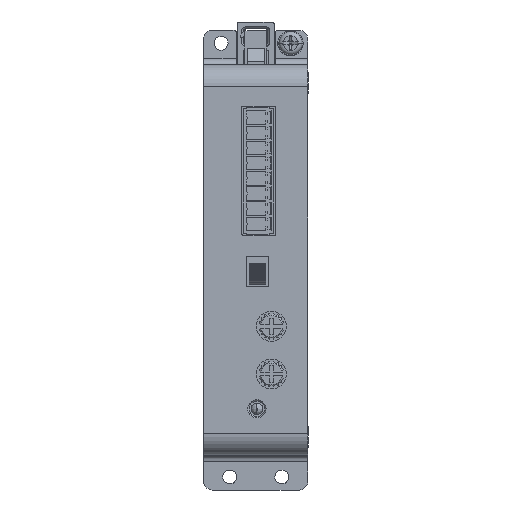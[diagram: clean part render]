
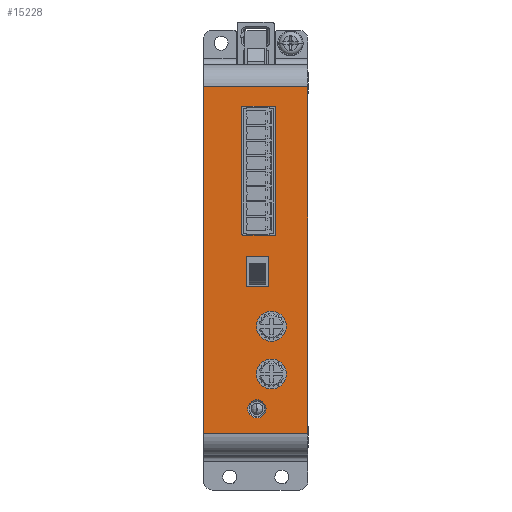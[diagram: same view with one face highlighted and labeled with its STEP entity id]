
A CAD part, front view. The second image highlights one B-rep face of the part: STEP entity #15228.
In plain terms, the highlighted planar face has unit normal (0, -1, 0).
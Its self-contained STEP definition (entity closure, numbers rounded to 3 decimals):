
#398=CARTESIAN_POINT('',(16.3,-35.,35.3));
#399=DIRECTION('',(0.,1.,0.));
#400=DIRECTION('',(0.,0.,1.));
#401=AXIS2_PLACEMENT_3D('',#398,#399,#400);
#403=CARTESIAN_POINT('',(9.,-35.,35.3));
#404=DIRECTION('',(0.,1.,0.));
#405=DIRECTION('',(-1.,0.,0.));
#406=AXIS2_PLACEMENT_3D('',#403,#404,#405);
#408=CARTESIAN_POINT('',(9.,-35.,5.9));
#409=DIRECTION('',(0.,1.,0.));
#410=DIRECTION('',(0.,0.,-1.));
#411=AXIS2_PLACEMENT_3D('',#408,#409,#410);
#413=CARTESIAN_POINT('',(16.3,-35.,5.9));
#414=DIRECTION('',(0.,1.,0.));
#415=DIRECTION('',(1.,0.,0.));
#416=AXIS2_PLACEMENT_3D('',#413,#414,#415);
#418=CARTESIAN_POINT('',(14.7,-35.,-5.95));
#419=DIRECTION('',(0.,1.,0.));
#420=DIRECTION('',(1.,0.,0.));
#421=AXIS2_PLACEMENT_3D('',#418,#419,#420);
#423=CARTESIAN_POINT('',(14.7,-35.,0.65));
#424=DIRECTION('',(0.,1.,0.));
#425=DIRECTION('',(0.,0.,1.));
#426=AXIS2_PLACEMENT_3D('',#423,#424,#425);
#428=CARTESIAN_POINT('',(10.1,-35.,0.65));
#429=DIRECTION('',(0.,1.,0.));
#430=DIRECTION('',(-1.,0.,0.));
#431=AXIS2_PLACEMENT_3D('',#428,#429,#430);
#433=CARTESIAN_POINT('',(10.1,-35.,-5.95));
#434=DIRECTION('',(0.,1.,0.));
#435=DIRECTION('',(0.,0.,-1.));
#436=AXIS2_PLACEMENT_3D('',#433,#434,#435);
#438=CARTESIAN_POINT('',(12.27,-35.,-34.3));
#439=DIRECTION('',(0.,1.,0.));
#440=DIRECTION('',(0.,0.,-1.));
#441=AXIS2_PLACEMENT_3D('',#438,#439,#440);
#443=CARTESIAN_POINT('',(12.27,-35.,-34.3));
#444=DIRECTION('',(0.,1.,0.));
#445=DIRECTION('',(0.,0.,1.));
#446=AXIS2_PLACEMENT_3D('',#443,#444,#445);
#448=CARTESIAN_POINT('',(15.6,-35.,-26.25));
#449=DIRECTION('',(0.,1.,0.));
#450=DIRECTION('',(0.,0.,-1.));
#451=AXIS2_PLACEMENT_3D('',#448,#449,#450);
#453=CARTESIAN_POINT('',(15.6,-35.,-26.25));
#454=DIRECTION('',(0.,1.,0.));
#455=DIRECTION('',(0.,0.,1.));
#456=AXIS2_PLACEMENT_3D('',#453,#454,#455);
#458=CARTESIAN_POINT('',(15.6,-35.,-15.25));
#459=DIRECTION('',(0.,1.,0.));
#460=DIRECTION('',(0.,0.,-1.));
#461=AXIS2_PLACEMENT_3D('',#458,#459,#460);
#463=CARTESIAN_POINT('',(15.6,-35.,-15.25));
#464=DIRECTION('',(0.,1.,0.));
#465=DIRECTION('',(0.,0.,1.));
#466=AXIS2_PLACEMENT_3D('',#463,#464,#465);
#468=DIRECTION('',(0.,0.,1.));
#469=VECTOR('',#468,80.);
#470=CARTESIAN_POINT('',(24.,-35.,-40.));
#471=LINE('',#470,#469);
#472=DIRECTION('',(0.,0.,-1.));
#473=VECTOR('',#472,80.);
#474=CARTESIAN_POINT('',(0.,-35.,40.));
#475=LINE('',#474,#473);
#488=DIRECTION('',(0.,0.,1.));
#489=VECTOR('',#488,29.4);
#490=CARTESIAN_POINT('',(16.5,-35.,5.9));
#491=LINE('',#490,#489);
#504=DIRECTION('',(1.,0.,0.));
#505=VECTOR('',#504,7.3);
#506=CARTESIAN_POINT('',(9.,-35.,5.7));
#507=LINE('',#506,#505);
#520=DIRECTION('',(0.,0.,-1.));
#521=VECTOR('',#520,29.4);
#522=CARTESIAN_POINT('',(8.8,-35.,35.3));
#523=LINE('',#522,#521);
#532=DIRECTION('',(-1.,0.,0.));
#533=VECTOR('',#532,7.3);
#534=CARTESIAN_POINT('',(16.3,-35.,35.5));
#535=LINE('',#534,#533);
#2492=DIRECTION('',(1.,0.,0.));
#2493=VECTOR('',#2492,4.6);
#2494=CARTESIAN_POINT('',(10.1,-35.,-6.15));
#2495=LINE('',#2494,#2493);
#2508=DIRECTION('',(0.,0.,-1.));
#2509=VECTOR('',#2508,6.6);
#2510=CARTESIAN_POINT('',(9.9,-35.,0.65));
#2511=LINE('',#2510,#2509);
#2524=DIRECTION('',(-1.,0.,0.));
#2525=VECTOR('',#2524,4.6);
#2526=CARTESIAN_POINT('',(14.7,-35.,0.85));
#2527=LINE('',#2526,#2525);
#2536=DIRECTION('',(0.,0.,1.));
#2537=VECTOR('',#2536,6.6);
#2538=CARTESIAN_POINT('',(14.9,-35.,-5.95));
#2539=LINE('',#2538,#2537);
#5551=DIRECTION('',(-1.,0.,0.));
#5552=VECTOR('',#5551,24.);
#5553=CARTESIAN_POINT('',(24.,-35.,-40.));
#5554=LINE('',#5553,#5552);
#7841=DIRECTION('',(1.,0.,0.));
#7842=VECTOR('',#7841,24.);
#7843=CARTESIAN_POINT('',(0.,-35.,40.));
#7844=LINE('',#7843,#7842);
#11841=CARTESIAN_POINT('',(0.,-35.,40.));
#11842=VERTEX_POINT('',#11841);
#11843=CARTESIAN_POINT('',(0.,-35.,-40.));
#11844=VERTEX_POINT('',#11843);
#11889=CARTESIAN_POINT('',(24.,-35.,-40.));
#11890=VERTEX_POINT('',#11889);
#11891=CARTESIAN_POINT('',(24.,-35.,40.));
#11892=VERTEX_POINT('',#11891);
#12121=CARTESIAN_POINT('',(15.6,-35.,-11.8));
#12122=CARTESIAN_POINT('',(15.6,-35.,-18.7));
#12123=VERTEX_POINT('',#12121);
#12124=VERTEX_POINT('',#12122);
#12125=CARTESIAN_POINT('',(15.6,-35.,-22.8));
#12126=CARTESIAN_POINT('',(15.6,-35.,-29.7));
#12127=VERTEX_POINT('',#12125);
#12128=VERTEX_POINT('',#12126);
#12129=CARTESIAN_POINT('',(12.27,-35.,-32.2));
#12130=CARTESIAN_POINT('',(12.27,-35.,-36.4));
#12131=VERTEX_POINT('',#12129);
#12132=VERTEX_POINT('',#12130);
#12133=CARTESIAN_POINT('',(14.9,-35.,-5.95));
#12134=CARTESIAN_POINT('',(14.9,-35.,0.65));
#12135=VERTEX_POINT('',#12133);
#12136=VERTEX_POINT('',#12134);
#12137=CARTESIAN_POINT('',(14.7,-35.,0.85));
#12138=VERTEX_POINT('',#12137);
#12139=CARTESIAN_POINT('',(10.1,-35.,0.85));
#12140=VERTEX_POINT('',#12139);
#12141=CARTESIAN_POINT('',(9.9,-35.,0.65));
#12142=VERTEX_POINT('',#12141);
#12143=CARTESIAN_POINT('',(9.9,-35.,-5.95));
#12144=VERTEX_POINT('',#12143);
#12145=CARTESIAN_POINT('',(10.1,-35.,-6.15));
#12146=VERTEX_POINT('',#12145);
#12147=CARTESIAN_POINT('',(14.7,-35.,-6.15));
#12148=VERTEX_POINT('',#12147);
#12149=CARTESIAN_POINT('',(16.3,-35.,35.5));
#12150=CARTESIAN_POINT('',(9.,-35.,35.5));
#12151=VERTEX_POINT('',#12149);
#12152=VERTEX_POINT('',#12150);
#12153=CARTESIAN_POINT('',(8.8,-35.,35.3));
#12154=VERTEX_POINT('',#12153);
#12155=CARTESIAN_POINT('',(8.8,-35.,5.9));
#12156=VERTEX_POINT('',#12155);
#12157=CARTESIAN_POINT('',(9.,-35.,5.7));
#12158=VERTEX_POINT('',#12157);
#12159=CARTESIAN_POINT('',(16.3,-35.,5.7));
#12160=VERTEX_POINT('',#12159);
#12161=CARTESIAN_POINT('',(16.5,-35.,5.9));
#12162=VERTEX_POINT('',#12161);
#12163=CARTESIAN_POINT('',(16.5,-35.,35.3));
#12164=VERTEX_POINT('',#12163);
#15161=CARTESIAN_POINT('',(0.,-35.,53.));
#15162=DIRECTION('',(0.,-1.,0.));
#15163=DIRECTION('',(0.,0.,-1.));
#15164=AXIS2_PLACEMENT_3D('',#15161,#15162,#15163);
#15165=PLANE('',#15164);
#15167=ORIENTED_EDGE('',*,*,#15166,.F.);
#15169=ORIENTED_EDGE('',*,*,#15168,.T.);
#15171=ORIENTED_EDGE('',*,*,#15170,.F.);
#15173=ORIENTED_EDGE('',*,*,#15172,.T.);
#15174=EDGE_LOOP('',(#15167,#15169,#15171,#15173));
#15175=FACE_OUTER_BOUND('',#15174,.F.);
#15177=ORIENTED_EDGE('',*,*,#15176,.F.);
#15179=ORIENTED_EDGE('',*,*,#15178,.T.);
#15181=ORIENTED_EDGE('',*,*,#15180,.F.);
#15183=ORIENTED_EDGE('',*,*,#15182,.T.);
#15185=ORIENTED_EDGE('',*,*,#15184,.F.);
#15187=ORIENTED_EDGE('',*,*,#15186,.T.);
#15189=ORIENTED_EDGE('',*,*,#15188,.F.);
#15191=ORIENTED_EDGE('',*,*,#15190,.T.);
#15192=EDGE_LOOP('',(#15177,#15179,#15181,#15183,#15185,#15187,#15189,#15191));
#15193=FACE_BOUND('',#15192,.F.);
#15195=ORIENTED_EDGE('',*,*,#15194,.F.);
#15197=ORIENTED_EDGE('',*,*,#15196,.F.);
#15198=EDGE_LOOP('',(#15195,#15197));
#15199=FACE_BOUND('',#15198,.F.);
#15200=ORIENTED_EDGE('',*,*,#15129,.F.);
#15201=ORIENTED_EDGE('',*,*,#15149,.F.);
#15202=EDGE_LOOP('',(#15200,#15201));
#15203=FACE_BOUND('',#15202,.F.);
#15205=ORIENTED_EDGE('',*,*,#15204,.F.);
#15207=ORIENTED_EDGE('',*,*,#15206,.F.);
#15208=EDGE_LOOP('',(#15205,#15207));
#15209=FACE_BOUND('',#15208,.F.);
#15211=ORIENTED_EDGE('',*,*,#15210,.F.);
#15213=ORIENTED_EDGE('',*,*,#15212,.T.);
#15215=ORIENTED_EDGE('',*,*,#15214,.F.);
#15217=ORIENTED_EDGE('',*,*,#15216,.T.);
#15219=ORIENTED_EDGE('',*,*,#15218,.F.);
#15221=ORIENTED_EDGE('',*,*,#15220,.T.);
#15223=ORIENTED_EDGE('',*,*,#15222,.F.);
#15225=ORIENTED_EDGE('',*,*,#15224,.T.);
#15226=EDGE_LOOP('',(#15211,#15213,#15215,#15217,#15219,#15221,#15223,#15225));
#15227=FACE_BOUND('',#15226,.F.);
#402=CIRCLE('',#401,0.2);
#407=CIRCLE('',#406,0.2);
#412=CIRCLE('',#411,0.2);
#417=CIRCLE('',#416,0.2);
#422=CIRCLE('',#421,0.2);
#427=CIRCLE('',#426,0.2);
#432=CIRCLE('',#431,0.2);
#437=CIRCLE('',#436,0.2);
#442=CIRCLE('',#441,2.1);
#447=CIRCLE('',#446,2.1);
#452=CIRCLE('',#451,3.45);
#457=CIRCLE('',#456,3.45);
#462=CIRCLE('',#461,3.45);
#467=CIRCLE('',#466,3.45);
#15129=EDGE_CURVE('',#12128,#12127,#452,.T.);
#15149=EDGE_CURVE('',#12127,#12128,#457,.T.);
#15166=EDGE_CURVE('',#11890,#11892,#471,.T.);
#15168=EDGE_CURVE('',#11890,#11844,#5554,.T.);
#15170=EDGE_CURVE('',#11842,#11844,#475,.T.);
#15172=EDGE_CURVE('',#11842,#11892,#7844,.T.);
#15176=EDGE_CURVE('',#12135,#12148,#422,.T.);
#15178=EDGE_CURVE('',#12135,#12136,#2539,.T.);
#15180=EDGE_CURVE('',#12138,#12136,#427,.T.);
#15182=EDGE_CURVE('',#12138,#12140,#2527,.T.);
#15184=EDGE_CURVE('',#12142,#12140,#432,.T.);
#15186=EDGE_CURVE('',#12142,#12144,#2511,.T.);
#15188=EDGE_CURVE('',#12146,#12144,#437,.T.);
#15190=EDGE_CURVE('',#12146,#12148,#2495,.T.);
#15194=EDGE_CURVE('',#12132,#12131,#442,.T.);
#15196=EDGE_CURVE('',#12131,#12132,#447,.T.);
#15204=EDGE_CURVE('',#12124,#12123,#462,.T.);
#15206=EDGE_CURVE('',#12123,#12124,#467,.T.);
#15210=EDGE_CURVE('',#12151,#12164,#402,.T.);
#15212=EDGE_CURVE('',#12151,#12152,#535,.T.);
#15214=EDGE_CURVE('',#12154,#12152,#407,.T.);
#15216=EDGE_CURVE('',#12154,#12156,#523,.T.);
#15218=EDGE_CURVE('',#12158,#12156,#412,.T.);
#15220=EDGE_CURVE('',#12158,#12160,#507,.T.);
#15222=EDGE_CURVE('',#12162,#12160,#417,.T.);
#15224=EDGE_CURVE('',#12162,#12164,#491,.T.);
#15228=ADVANCED_FACE('',(#15175,#15193,#15199,#15203,#15209,#15227),#15165,.T.);
